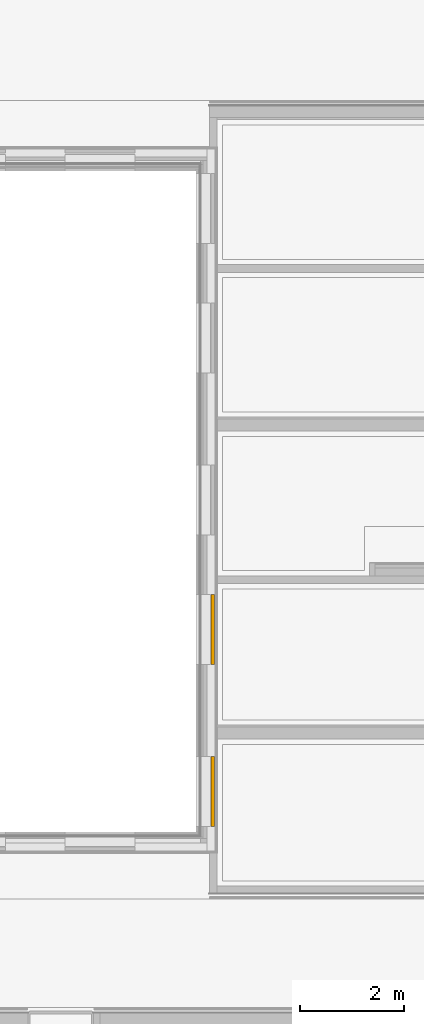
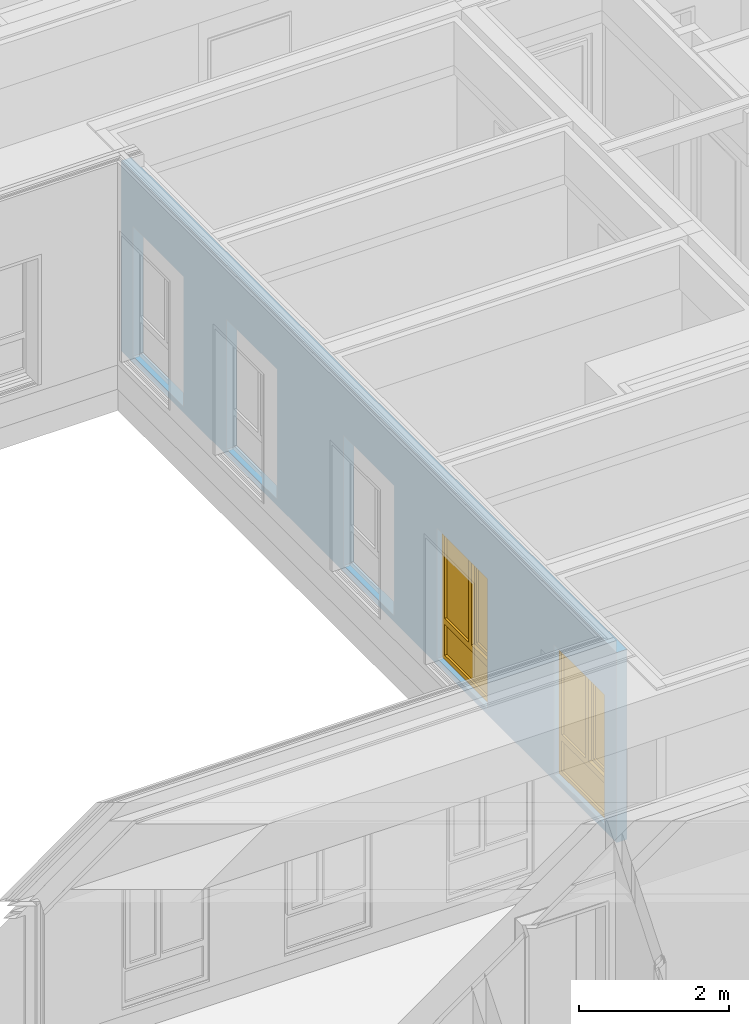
# One storey, part 134 of 207: 2 windows, 5 openings, plus 1 element that does not belong to this part.
"""IFC4 building model written with IfcOpenShell, lengths in metres."""

from ifc_helpers import new_model, entity, si_unit, converted_unit, derived_unit, frame, frame_2d, origin, origin_with_axes, place, context, subcontext, project, spatial, polyline, rectangle, outline, extrude, closed_shell, open_shell, surface_model, source, transform, mapped, material, element, fill, save


model = new_model("IFC4")

# Units and contexts
model_context = context("Model", 3, precision=1e-05, world=origin())
body_context = subcontext(model_context, "Body", "Model", "MODEL_VIEW")
ifc_project = project(units=[si_unit("LENGTHUNIT", "METRE"), si_unit("AREAUNIT", "SQUARE_METRE"), si_unit("VOLUMEUNIT", "CUBIC_METRE"), si_unit("MASSUNIT", "GRAM", prefix="KILO"), converted_unit("PLANEANGLEUNIT", "DEGREE", entity("IfcPlaneAngleMeasure", 0.0174532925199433), si_unit("PLANEANGLEUNIT", "RADIAN"), dimensions=[0, 0, 0, 0, 0, 0, 0]), derived_unit("THERMALTRANSMITTANCEUNIT", [(si_unit("POWERUNIT", "WATT"), 1), (si_unit("THERMODYNAMICTEMPERATUREUNIT", "KELVIN"), -1), (si_unit("LENGTHUNIT", "METRE"), -2)]), derived_unit("VOLUMETRICFLOWRATEUNIT", [(si_unit("LENGTHUNIT", "METRE"), 3), (converted_unit("TIMEUNIT", "hour", entity("IfcTimeMeasure", 3600.0), si_unit("TIMEUNIT", "SECOND"), dimensions=[0, 0, 1, 0, 0, 0, 0]), -1), (si_unit("LENGTHUNIT", "METRE"), -1)])], contexts=[model_context])

# Site, building, storey
site_placement = place(None, origin())
site = spatial("IfcSite", under=ifc_project, at=site_placement, Name="Psychiatrie Neubau Wunstorf", CompositionType="ELEMENT")
building_placement = place(site_placement, origin())
building = spatial("IfcBuilding", under=site, at=building_placement, Name="Neubau H2 Stationsgebäude", CompositionType="ELEMENT")
storey_placement = place(building_placement, frame((0.0, 0.0, -0.2)))
storey = spatial("IfcBuildingStorey", under=building, at=storey_placement, Name="H2 Ebene 0", CompositionType="ELEMENT", Elevation=-0.2)

# Wall, openings, windows
ifc_material = material(Name="WA-HD")
wall_placement = place(storey_placement, frame((90.325, 8.61000000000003, 0.5), z_axis=(0.0, 0.0, 1.0), x_axis=(0.0, 1.0, 0.0)))
wall = element("IfcWall", 1, at=wall_placement, inside=storey, material=ifc_material, context=body_context, shape_type="SweptSolid", body=[
    extrude(rectangle(XDim=13.23, YDim=0.16, at=frame_2d((6.615, 0.08), x_axis=(1.0, 0.0))), origin_with_axes(), (0.0, 0.0, 1.0), 3.1),
])
opening_1_placement = place(wall_placement, frame((12.9146, 0.16, 0.1), z_axis=(0.0, -1.0, 0.0), x_axis=(0.0, 0.0, 1.0)))
element("IfcOpeningElement", 2, at=opening_1_placement, cuts=wall, Name="Fensteröffnung", ObjectType="Opening", context=body_context, shape_type="SweptSolid", body=[
    extrude(outline(polyline([(2.12, 1.35), (2.12, 0.0), (0.0, 0.0), (0.0, 1.35), (2.12, 1.35)])), origin_with_axes(), (0.0, 0.0, 1.0), 0.16),
])
opening_2_placement = place(wall_placement, frame((10.4146, 0.16, 0.1), z_axis=(0.0, -1.0, 0.0), x_axis=(0.0, 0.0, 1.0)))
element("IfcOpeningElement", 3, at=opening_2_placement, cuts=wall, Name="Fensteröffnung", ObjectType="Opening", context=body_context, shape_type="SweptSolid", body=[
    extrude(outline(polyline([(2.12, 1.35), (2.12, 0.0), (0.0, 0.0), (0.0, 1.35), (2.12, 1.35)])), origin_with_axes(), (0.0, 0.0, 1.0), 0.16),
])
opening_3_placement = place(wall_placement, frame((7.28999999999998, 0.16, 0.1), z_axis=(0.0, -1.0, 0.0), x_axis=(0.0, 0.0, 1.0)))
element("IfcOpeningElement", 4, at=opening_3_placement, cuts=wall, Name="Fensteröffnung", ObjectType="Opening", context=body_context, shape_type="SweptSolid", body=[
    extrude(outline(polyline([(2.12, 1.35), (2.12, 0.0), (0.0, 0.0), (0.0, 1.35), (2.12, 1.35)])), origin_with_axes(), (0.0, 0.0, 1.0), 0.16),
])
opening_4_placement = place(wall_placement, frame((4.78999999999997, 0.16, 0.1), z_axis=(0.0, -1.0, 0.0), x_axis=(0.0, 0.0, 1.0)))
opening_4 = element("IfcOpeningElement", 5, at=opening_4_placement, cuts=wall, Name="Fensteröffnung", ObjectType="Opening", context=body_context, shape_type="SweptSolid", body=[
    extrude(outline(polyline([(2.12, 1.35), (2.12, 0.0), (0.0, 0.0), (0.0, 1.35), (2.12, 1.35)])), origin_with_axes(), (0.0, 0.0, 1.0), 0.16),
])
opening_5_placement = place(wall_placement, frame((1.66569999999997, 0.16, 0.1), z_axis=(0.0, -1.0, 0.0), x_axis=(0.0, 0.0, 1.0)))
opening_5 = element("IfcOpeningElement", 6, at=opening_5_placement, cuts=wall, Name="Fensteröffnung", ObjectType="Opening", context=body_context, shape_type="SweptSolid", body=[
    extrude(outline(polyline([(2.12, 1.35), (2.12, 0.0), (0.0, 0.0), (0.0, 1.35), (2.12, 1.35)])), origin_with_axes(), (0.0, 0.0, 1.0), 0.16),
])
shared_shape_1 = source(origin_with_axes(), body_context, "Body", "SurfaceModel", [
    surface_model("IfcShellBasedSurfaceModel", [(0.0, 0.0, 2.12), (0.0699999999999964, 0.0, 2.12), (0.0699999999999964, 0.0, 0.0), (0.0, 0.0, 0.0), (0.0, 0.0700000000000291, 0.0), (0.0699999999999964, 0.0700000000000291, 0.0), (0.0699999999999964, 0.0700000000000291, 2.12), (0.0, 0.0700000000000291, 2.12)], [closed_shell([[[0, 1, 2, 3]], [[4, 5, 6, 7]], [[3, 4, 7, 0]], [[2, 5, 4, 3]], [[1, 6, 5, 2]], [[0, 7, 6, 1]]], orient=[[False], [False], [False], [False], [False], [False]])]),
    surface_model("IfcShellBasedSurfaceModel", [(1.28, 0.0, 2.12), (1.35, 0.0, 2.12), (1.35, 0.0, 0.0), (1.28, 0.0, 0.0), (1.28, 0.0700000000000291, 0.0), (1.35, 0.0700000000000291, 0.0), (1.35, 0.0700000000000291, 2.12), (1.28, 0.0700000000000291, 2.12)], [closed_shell([[[0, 1, 2, 3]], [[4, 5, 6, 7]], [[3, 4, 7, 0]], [[2, 5, 4, 3]], [[1, 6, 5, 2]], [[0, 7, 6, 1]]], orient=[[False], [False], [False], [False], [False], [False]])]),
    surface_model("IfcShellBasedSurfaceModel", [(0.0699999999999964, 0.0, 0.07), (1.28, 0.0, 0.07), (1.28, 0.0, 0.0), (0.0699999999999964, 0.0, 0.0), (0.0699999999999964, 0.0700000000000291, 0.0), (1.28, 0.0700000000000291, 0.0), (1.28, 0.0700000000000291, 0.07), (0.0699999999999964, 0.0700000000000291, 0.07)], [closed_shell([[[0, 1, 2, 3]], [[4, 5, 6, 7]], [[3, 4, 7, 0]], [[2, 5, 4, 3]], [[1, 6, 5, 2]], [[0, 7, 6, 1]]], orient=[[False], [False], [False], [False], [False], [False]])]),
    surface_model("IfcShellBasedSurfaceModel", [(0.0699999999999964, 0.0, 2.12), (1.28, 0.0, 2.12), (1.28, 0.0, 2.05), (0.0699999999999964, 0.0, 2.05), (0.0699999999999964, 0.0700000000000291, 2.05), (1.28, 0.0700000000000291, 2.05), (1.28, 0.0700000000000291, 2.12), (0.0699999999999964, 0.0700000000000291, 2.12)], [closed_shell([[[0, 1, 2, 3]], [[4, 5, 6, 7]], [[3, 4, 7, 0]], [[2, 5, 4, 3]], [[1, 6, 5, 2]], [[0, 7, 6, 1]]], orient=[[False], [False], [False], [False], [False], [False]])]),
    surface_model("IfcShellBasedSurfaceModel", [(0.0699999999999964, 0.0, 0.67), (1.28, 0.0, 0.67), (1.28, 0.0, 0.57), (0.0699999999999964, 0.0, 0.57), (0.0699999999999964, 0.0700000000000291, 0.57), (1.28, 0.0700000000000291, 0.57), (1.28, 0.0700000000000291, 0.67), (0.0699999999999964, 0.0700000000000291, 0.67)], [closed_shell([[[0, 1, 2, 3]], [[4, 5, 6, 7]], [[3, 4, 7, 0]], [[2, 5, 4, 3]], [[1, 6, 5, 2]], [[0, 7, 6, 1]]], orient=[[False], [False], [False], [False], [False], [False]])]),
    surface_model("IfcShellBasedSurfaceModel", [(0.0699999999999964, 0.0350000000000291, 0.07), (0.0699999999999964, 0.0350000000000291, 0.57), (1.28, 0.0350000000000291, 0.57), (1.28, 0.0350000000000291, 0.07)], [open_shell([[[0, 1, 2, 3]]], orient=[[False]])]),
    surface_model("IfcShellBasedSurfaceModel", [(0.569999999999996, 0.0, 2.05), (0.639999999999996, 0.0, 2.05), (0.639999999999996, 0.0, 0.67), (0.569999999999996, 0.0, 0.67), (0.569999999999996, 0.0700000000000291, 0.67), (0.639999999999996, 0.0700000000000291, 0.67), (0.639999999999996, 0.0700000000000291, 2.05), (0.569999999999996, 0.0700000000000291, 2.05)], [closed_shell([[[0, 1, 2, 3]], [[4, 5, 6, 7]], [[3, 4, 7, 0]], [[2, 5, 4, 3]], [[1, 6, 5, 2]], [[0, 7, 6, 1]]], orient=[[False], [False], [False], [False], [False], [False]])]),
    surface_model("IfcShellBasedSurfaceModel", [(0.0499999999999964, -0.0499999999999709, 2.07), (0.119999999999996, -0.0499999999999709, 2.07), (0.119999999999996, -0.0499999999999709, 0.65), (0.0499999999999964, -0.0499999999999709, 0.65), (0.0499999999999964, 0.0200000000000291, 0.65), (0.119999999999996, 0.0200000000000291, 0.65), (0.119999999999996, 0.0200000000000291, 2.07), (0.0499999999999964, 0.0200000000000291, 2.07)], [closed_shell([[[0, 1, 2, 3]], [[4, 5, 6, 7]], [[3, 4, 7, 0]], [[2, 5, 4, 3]], [[1, 6, 5, 2]], [[0, 7, 6, 1]]], orient=[[False], [False], [False], [False], [False], [False]])]),
    surface_model("IfcShellBasedSurfaceModel", [(0.519999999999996, -0.0499999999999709, 2.07), (0.589999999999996, -0.0499999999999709, 2.07), (0.589999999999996, -0.0499999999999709, 0.65), (0.519999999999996, -0.0499999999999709, 0.65), (0.519999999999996, 0.0200000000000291, 0.65), (0.589999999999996, 0.0200000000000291, 0.65), (0.589999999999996, 0.0200000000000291, 2.07), (0.519999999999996, 0.0200000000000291, 2.07)], [closed_shell([[[0, 1, 2, 3]], [[4, 5, 6, 7]], [[3, 4, 7, 0]], [[2, 5, 4, 3]], [[1, 6, 5, 2]], [[0, 7, 6, 1]]], orient=[[False], [False], [False], [False], [False], [False]])]),
    surface_model("IfcShellBasedSurfaceModel", [(0.119999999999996, -0.0499999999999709, 0.72), (0.519999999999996, -0.0499999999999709, 0.72), (0.519999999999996, -0.0499999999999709, 0.65), (0.119999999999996, -0.0499999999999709, 0.65), (0.119999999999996, 0.0200000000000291, 0.65), (0.519999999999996, 0.0200000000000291, 0.65), (0.519999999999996, 0.0200000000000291, 0.72), (0.119999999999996, 0.0200000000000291, 0.72)], [closed_shell([[[0, 1, 2, 3]], [[4, 5, 6, 7]], [[3, 4, 7, 0]], [[2, 5, 4, 3]], [[1, 6, 5, 2]], [[0, 7, 6, 1]]], orient=[[False], [False], [False], [False], [False], [False]])]),
    surface_model("IfcShellBasedSurfaceModel", [(0.119999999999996, -0.0499999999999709, 2.07), (0.519999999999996, -0.0499999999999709, 2.07), (0.519999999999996, -0.0499999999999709, 2.0), (0.119999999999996, -0.0499999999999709, 2.0), (0.119999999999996, 0.0200000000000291, 2.0), (0.519999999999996, 0.0200000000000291, 2.0), (0.519999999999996, 0.0200000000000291, 2.07), (0.119999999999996, 0.0200000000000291, 2.07)], [closed_shell([[[0, 1, 2, 3]], [[4, 5, 6, 7]], [[3, 4, 7, 0]], [[2, 5, 4, 3]], [[1, 6, 5, 2]], [[0, 7, 6, 1]]], orient=[[False], [False], [False], [False], [False], [False]])]),
    surface_model("IfcShellBasedSurfaceModel", [(0.639999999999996, 0.0350000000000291, 0.67), (0.639999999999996, 0.0350000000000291, 2.05), (1.28, 0.0350000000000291, 2.05), (1.28, 0.0350000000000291, 0.67)], [open_shell([[[0, 1, 2, 3]]], orient=[[False]])]),
    surface_model("IfcShellBasedSurfaceModel", [(0.119999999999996, -0.0149999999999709, 0.72), (0.119999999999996, -0.0149999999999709, 2.0), (0.519999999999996, -0.0149999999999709, 2.0), (0.519999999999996, -0.0149999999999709, 0.72)], [open_shell([[[0, 1, 2, 3]]], orient=[[False]])]),
])
window_1_placement = place(opening_4_placement, frame((0.0, 1.35, 0.146), z_axis=(1.0, 0.0, 0.0), x_axis=(0.0, -1.0, 0.0)))
window_1 = element("IfcWindow", 7, at=window_1_placement, inside=storey, Name="Fenster", OverallHeight=2.12, OverallWidth=1.35, PartitioningType="USERDEFINED", PredefinedType="WINDOW", context=body_context, shape_type="MappedRepresentation", body=[
    mapped(shared_shape_1, transform((0.0, 0.0, 0.0), x_axis=(1.0, 0.0, 0.0), y_axis=(0.0, 1.0, 0.0), z_axis=(0.0, 0.0, 1.0), scale=1.0)),
])
fill(opening_4, window_1)
shared_shape_2 = source(origin_with_axes(), body_context, "Body", "SurfaceModel", [
    surface_model("IfcShellBasedSurfaceModel", [(0.0, 0.0, 2.12), (0.0699999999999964, 0.0, 2.12), (0.0699999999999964, 0.0, 0.0), (0.0, 0.0, 0.0), (0.0, 0.0700000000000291, 0.0), (0.0699999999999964, 0.0700000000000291, 0.0), (0.0699999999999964, 0.0700000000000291, 2.12), (0.0, 0.0700000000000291, 2.12)], [closed_shell([[[0, 1, 2, 3]], [[4, 5, 6, 7]], [[3, 4, 7, 0]], [[2, 5, 4, 3]], [[1, 6, 5, 2]], [[0, 7, 6, 1]]], orient=[[False], [False], [False], [False], [False], [False]])]),
    surface_model("IfcShellBasedSurfaceModel", [(1.28, 0.0, 2.12), (1.35, 0.0, 2.12), (1.35, 0.0, 0.0), (1.28, 0.0, 0.0), (1.28, 0.0700000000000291, 0.0), (1.35, 0.0700000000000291, 0.0), (1.35, 0.0700000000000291, 2.12), (1.28, 0.0700000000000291, 2.12)], [closed_shell([[[0, 1, 2, 3]], [[4, 5, 6, 7]], [[3, 4, 7, 0]], [[2, 5, 4, 3]], [[1, 6, 5, 2]], [[0, 7, 6, 1]]], orient=[[False], [False], [False], [False], [False], [False]])]),
    surface_model("IfcShellBasedSurfaceModel", [(0.0699999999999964, 0.0, 0.07), (1.28, 0.0, 0.07), (1.28, 0.0, 0.0), (0.0699999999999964, 0.0, 0.0), (0.0699999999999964, 0.0700000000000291, 0.0), (1.28, 0.0700000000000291, 0.0), (1.28, 0.0700000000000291, 0.07), (0.0699999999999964, 0.0700000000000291, 0.07)], [closed_shell([[[0, 1, 2, 3]], [[4, 5, 6, 7]], [[3, 4, 7, 0]], [[2, 5, 4, 3]], [[1, 6, 5, 2]], [[0, 7, 6, 1]]], orient=[[False], [False], [False], [False], [False], [False]])]),
    surface_model("IfcShellBasedSurfaceModel", [(0.0699999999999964, 0.0, 2.12), (1.28, 0.0, 2.12), (1.28, 0.0, 2.05), (0.0699999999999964, 0.0, 2.05), (0.0699999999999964, 0.0700000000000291, 2.05), (1.28, 0.0700000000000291, 2.05), (1.28, 0.0700000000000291, 2.12), (0.0699999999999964, 0.0700000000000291, 2.12)], [closed_shell([[[0, 1, 2, 3]], [[4, 5, 6, 7]], [[3, 4, 7, 0]], [[2, 5, 4, 3]], [[1, 6, 5, 2]], [[0, 7, 6, 1]]], orient=[[False], [False], [False], [False], [False], [False]])]),
    surface_model("IfcShellBasedSurfaceModel", [(0.0699999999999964, 0.0, 0.67), (1.28, 0.0, 0.67), (1.28, 0.0, 0.57), (0.0699999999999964, 0.0, 0.57), (0.0699999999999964, 0.0700000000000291, 0.57), (1.28, 0.0700000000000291, 0.57), (1.28, 0.0700000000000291, 0.67), (0.0699999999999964, 0.0700000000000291, 0.67)], [closed_shell([[[0, 1, 2, 3]], [[4, 5, 6, 7]], [[3, 4, 7, 0]], [[2, 5, 4, 3]], [[1, 6, 5, 2]], [[0, 7, 6, 1]]], orient=[[False], [False], [False], [False], [False], [False]])]),
    surface_model("IfcShellBasedSurfaceModel", [(0.0699999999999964, 0.0350000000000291, 0.07), (0.0699999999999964, 0.0350000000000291, 0.57), (1.28, 0.0350000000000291, 0.57), (1.28, 0.0350000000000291, 0.07)], [open_shell([[[0, 1, 2, 3]]], orient=[[False]])]),
    surface_model("IfcShellBasedSurfaceModel", [(0.569999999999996, 0.0, 2.05), (0.639999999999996, 0.0, 2.05), (0.639999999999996, 0.0, 0.67), (0.569999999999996, 0.0, 0.67), (0.569999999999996, 0.0700000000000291, 0.67), (0.639999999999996, 0.0700000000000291, 0.67), (0.639999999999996, 0.0700000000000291, 2.05), (0.569999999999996, 0.0700000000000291, 2.05)], [closed_shell([[[0, 1, 2, 3]], [[4, 5, 6, 7]], [[3, 4, 7, 0]], [[2, 5, 4, 3]], [[1, 6, 5, 2]], [[0, 7, 6, 1]]], orient=[[False], [False], [False], [False], [False], [False]])]),
    surface_model("IfcShellBasedSurfaceModel", [(0.0499999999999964, -0.0499999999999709, 2.07), (0.119999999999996, -0.0499999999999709, 2.07), (0.119999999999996, -0.0499999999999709, 0.65), (0.0499999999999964, -0.0499999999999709, 0.65), (0.0499999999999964, 0.0200000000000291, 0.65), (0.119999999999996, 0.0200000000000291, 0.65), (0.119999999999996, 0.0200000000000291, 2.07), (0.0499999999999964, 0.0200000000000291, 2.07)], [closed_shell([[[0, 1, 2, 3]], [[4, 5, 6, 7]], [[3, 4, 7, 0]], [[2, 5, 4, 3]], [[1, 6, 5, 2]], [[0, 7, 6, 1]]], orient=[[False], [False], [False], [False], [False], [False]])]),
    surface_model("IfcShellBasedSurfaceModel", [(0.519999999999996, -0.0499999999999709, 2.07), (0.589999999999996, -0.0499999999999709, 2.07), (0.589999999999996, -0.0499999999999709, 0.65), (0.519999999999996, -0.0499999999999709, 0.65), (0.519999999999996, 0.0200000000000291, 0.65), (0.589999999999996, 0.0200000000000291, 0.65), (0.589999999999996, 0.0200000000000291, 2.07), (0.519999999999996, 0.0200000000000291, 2.07)], [closed_shell([[[0, 1, 2, 3]], [[4, 5, 6, 7]], [[3, 4, 7, 0]], [[2, 5, 4, 3]], [[1, 6, 5, 2]], [[0, 7, 6, 1]]], orient=[[False], [False], [False], [False], [False], [False]])]),
    surface_model("IfcShellBasedSurfaceModel", [(0.119999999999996, -0.0499999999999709, 0.72), (0.519999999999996, -0.0499999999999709, 0.72), (0.519999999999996, -0.0499999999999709, 0.65), (0.119999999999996, -0.0499999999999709, 0.65), (0.119999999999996, 0.0200000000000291, 0.65), (0.519999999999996, 0.0200000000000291, 0.65), (0.519999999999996, 0.0200000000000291, 0.72), (0.119999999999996, 0.0200000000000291, 0.72)], [closed_shell([[[0, 1, 2, 3]], [[4, 5, 6, 7]], [[3, 4, 7, 0]], [[2, 5, 4, 3]], [[1, 6, 5, 2]], [[0, 7, 6, 1]]], orient=[[False], [False], [False], [False], [False], [False]])]),
    surface_model("IfcShellBasedSurfaceModel", [(0.119999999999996, -0.0499999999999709, 2.07), (0.519999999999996, -0.0499999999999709, 2.07), (0.519999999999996, -0.0499999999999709, 2.0), (0.119999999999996, -0.0499999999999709, 2.0), (0.119999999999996, 0.0200000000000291, 2.0), (0.519999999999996, 0.0200000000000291, 2.0), (0.519999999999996, 0.0200000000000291, 2.07), (0.119999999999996, 0.0200000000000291, 2.07)], [closed_shell([[[0, 1, 2, 3]], [[4, 5, 6, 7]], [[3, 4, 7, 0]], [[2, 5, 4, 3]], [[1, 6, 5, 2]], [[0, 7, 6, 1]]], orient=[[False], [False], [False], [False], [False], [False]])]),
    surface_model("IfcShellBasedSurfaceModel", [(0.639999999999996, 0.0350000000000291, 0.67), (0.639999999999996, 0.0350000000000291, 2.05), (1.28, 0.0350000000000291, 2.05), (1.28, 0.0350000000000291, 0.67)], [open_shell([[[0, 1, 2, 3]]], orient=[[False]])]),
    surface_model("IfcShellBasedSurfaceModel", [(0.119999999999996, -0.0149999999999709, 0.72), (0.119999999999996, -0.0149999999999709, 2.0), (0.519999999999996, -0.0149999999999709, 2.0), (0.519999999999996, -0.0149999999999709, 0.72)], [open_shell([[[0, 1, 2, 3]]], orient=[[False]])]),
])
window_2_placement = place(opening_5_placement, frame((0.0, 1.35, 0.146), z_axis=(1.0, 0.0, 0.0), x_axis=(0.0, -1.0, 0.0)))
window_2 = element("IfcWindow", 8, at=window_2_placement, inside=storey, Name="Fenster", OverallHeight=2.12, OverallWidth=1.35, PartitioningType="USERDEFINED", PredefinedType="WINDOW", context=body_context, shape_type="MappedRepresentation", body=[
    mapped(shared_shape_2, transform((0.0, 0.0, 0.0), x_axis=(1.0, 0.0, 0.0), y_axis=(0.0, 1.0, 0.0), z_axis=(0.0, 0.0, 1.0), scale=1.0)),
])
fill(opening_5, window_2)

save(model, "model.ifc")
